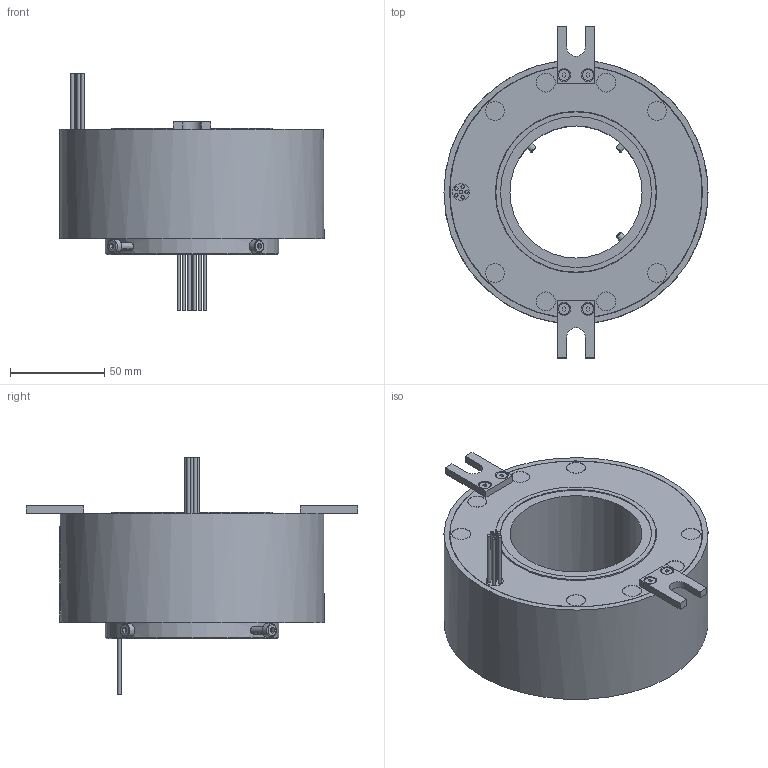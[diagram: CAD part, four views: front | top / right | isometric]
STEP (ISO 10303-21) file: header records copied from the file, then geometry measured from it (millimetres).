
FILE_DESCRIPTION(/* description */ (''),/* implementation_level */ '2;1');
FILE_NAME(/* name */ 'HD70140-0610-3D模型.stp',/* time_stamp */ '2025-09-04T15:24:08+08:00',/* author */ (''),/* organization */ (''),/* preprocessor_version */ 'ST-DEVELOPER v16.7',/* originating_system */ 'SIEMENS PLM Software NX 12.0',/* authorisation */ '');
FILE_SCHEMA (('AUTOMOTIVE_DESIGN { 1 0 10303 214 3 1 1 1 }'));
Length unit declared in the file: millimetre
Products named in the file (1): AdmiB53CE2DD1yla
Bounding box: 140 x 176 x 126 mm (x, y, z)
Volume: 698716.6 mm3; surface area: 73228.4 mm2
Topology: 1 solids, 5 shells, 793 faces, 2086 edges, 1388 vertices
Faces by surface type: plane 357, extrusion 313, cylinder 73, bspline 30, cone 16, torus 4
Full cylindrical faces by diameter (mm): 1.8 x12, 3 x4, 3.4 x1, 3.5 x4, 4 x7, 6 x4, 7 x4, 9 x1, 10 x8, 70 x1, 80 x1, 85 x1, 85.5 x1, 92 x1, 133.8 x2, 134 x2, 140 x1
Entity records: 29874 total; most frequent: CARTESIAN_POINT 13249, ORIENTED_EDGE 3936, DIRECTION 2139, EDGE_CURVE 1968, B_SPLINE_CURVE_WITH_KNOTS 1644, VERTEX_POINT 1349, EDGE_LOOP 965, ADVANCED_FACE 790
